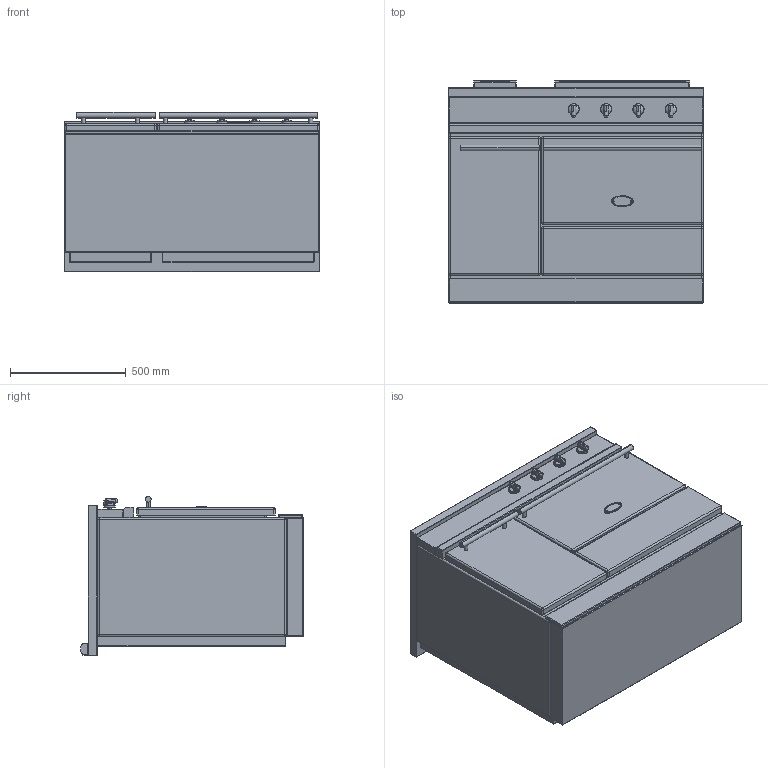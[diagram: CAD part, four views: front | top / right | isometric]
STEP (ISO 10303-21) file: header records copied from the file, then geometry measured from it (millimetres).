
FILE_DESCRIPTION((''),'2;1');
FILE_NAME('LMVI1131_CHASSAGNE_ASM','2022-04-13T11:26:50',('stagiaire'),(''),'CREO PARAMETRIC BY PTC INC, 2021424','CREO PARAMETRIC BY PTC INC, 2021424','');
FILE_SCHEMA(('AP203_CONFIGURATION_CONTROLLED_3D_DESIGN_OF_MECHANICAL_PARTS_AND_ASSEMBLIES_MIM_LF { 1 0 10303 403 2 1 2 }'));
Products named in the file (13): BASE_EXP_CHASSAGNE_LMVI1131; 65049009; 65650001; 65064012; 19150009; 88064012_ASM; BASE_EXPORT_CHASSAGNE_LMVI1131_ASM; TABLE_1105G_INDUCTION_ET_VTR; 65052012; CHEMINEE_2020_LG182_EXPORT_STEP; CHEMINEE_2020_LG582_EXPORT_STEP; TABLE_1105G_INDUCTION_ASM; LMVI1131_CHASSAGNE_ASM
Assembly tree (15 placements, depth 4):
  LMVI1131_CHASSAGNE_ASM
    BASE_EXPORT_CHASSAGNE_LMVI1131_ASM
      BASE_EXP_CHASSAGNE_LMVI1131
      65049009
      65650001
      88064012_ASM  x4
        65064012
        19150009
    TABLE_1105G_INDUCTION_ASM
      TABLE_1105G_INDUCTION_ET_VTR
      65052012
      CHEMINEE_2020_LG182_EXPORT_STEP
      CHEMINEE_2020_LG582_EXPORT_STEP
Bounding box: 1105 x 963.5 x 688.5 mm (x, y, z)
Volume: 594988407.5 mm3; surface area: 9157846 mm2
Topology: 19 solids, 19 shells, 2342 faces, 6769 edges, 4328 vertices
Faces by surface type: plane 1076, cylinder 868, sphere 174, bspline 149, torus 51, cone 22, extrusion 2
Entity records: 83617 total; most frequent: CARTESIAN_POINT 21056, ORIENTED_EDGE 11110, DIRECTION 10867, EDGE_CURVE 5555, VECTOR 4205, LINE 4203, VERTEX_POINT 3577, AXIS2_PLACEMENT_3D 3313
